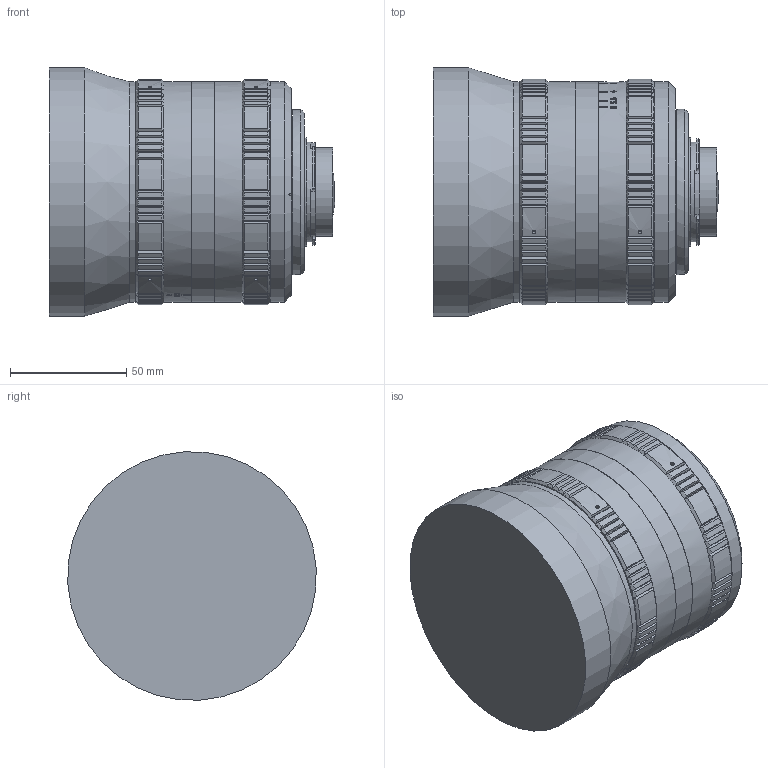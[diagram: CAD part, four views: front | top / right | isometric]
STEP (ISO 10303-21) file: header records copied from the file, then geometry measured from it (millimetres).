
FILE_DESCRIPTION((''),'2;1');
FILE_NAME('\\10.0.0.209\Doc Produ\Meccaniche\STP\A_2008\C0809\C0809_000\C0809_002.stp','2014-04-28T11:33:14',('mcilia'),(''),'Autodesk Inventor 2010','Autodesk Inventor 2010','');
FILE_SCHEMA(('AUTOMOTIVE_DESIGN { 1 0 10303 214 1 1 1 1 }'));
Length unit declared in the file: millimetre
Products named in the file (2): C0809_002_000 (Livello di dettaglio sostituto1); C0809_002
Assembly tree (1 placements, depth 2):
  C0809_002_000 (Livello di dettaglio sostituto1)
    C0809_002
Bounding box: 122.6 x 106.74 x 106.74 mm (x, y, z)
Surface area: 112064.4 mm2 (no closed solid volume)
Topology: 0 solids, 22 shells, 628 faces, 1968 edges, 1348 vertices
Faces by surface type: plane 239, cone 226, cylinder 143, bspline 19, sphere 1
Full cylindrical faces by diameter (mm): 38 x1, 43 x1, 47 x1, 95 x4, 107 x1
Entity records: 23432 total; most frequent: CARTESIAN_POINT 7183, ORIENTED_EDGE 3124, DIRECTION 3077, EDGE_CURVE 1928, VERTEX_POINT 1333, AXIS2_PLACEMENT_3D 1268, EDGE_LOOP 701, CIRCLE 640
